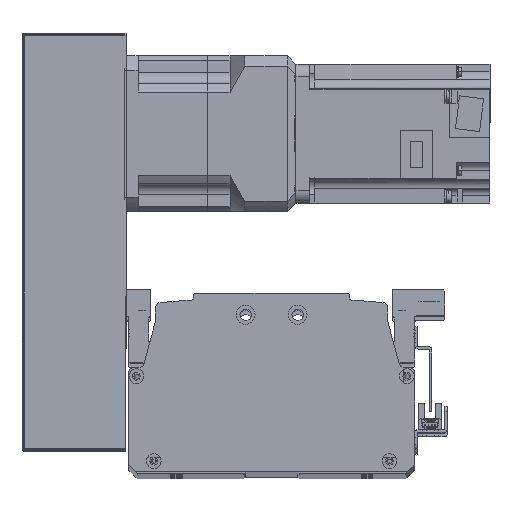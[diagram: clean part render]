
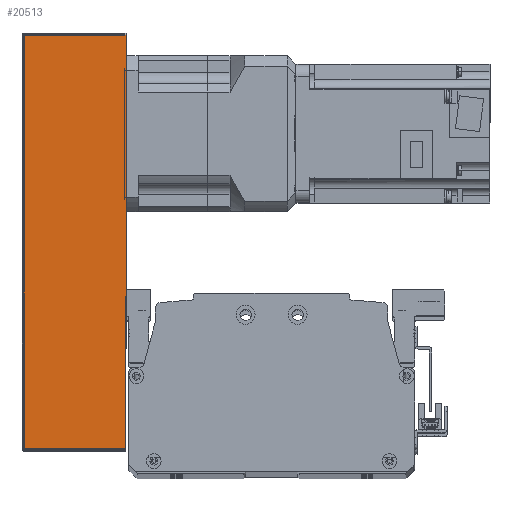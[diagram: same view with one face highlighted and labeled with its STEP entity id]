
A CAD part, top view. The second image highlights one B-rep face of the part: STEP entity #20513.
In plain terms, the highlighted planar face has unit normal (0, 0, 1) as drawn and (0, -1, 0) by its records, which use the part's own axes.
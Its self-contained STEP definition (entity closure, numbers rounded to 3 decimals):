
#615=PLANE('',#22415);
#1736=LINE('',#33035,#3396);
#1759=LINE('',#33122,#3419);
#1760=LINE('',#33130,#3420);
#1768=LINE('',#33156,#3428);
#3396=VECTOR('',#26763,10.);
#3419=VECTOR('',#26874,10.);
#3420=VECTOR('',#26885,10.);
#3428=VECTOR('',#26921,10.);
#5496=FACE_OUTER_BOUND('',#7008,.T.);
#7008=EDGE_LOOP('',(#16694,#16695,#16696,#16697));
#9956=VERTEX_POINT('',#33032);
#9957=VERTEX_POINT('',#33034);
#9977=VERTEX_POINT('',#33118);
#9978=VERTEX_POINT('',#33124);
#12355=EDGE_CURVE('',#9956,#9957,#1736,.T.);
#12400=EDGE_CURVE('',#9957,#9977,#1759,.T.);
#12404=EDGE_CURVE('',#9978,#9956,#1760,.T.);
#12418=EDGE_CURVE('',#9977,#9978,#1768,.T.);
#16694=ORIENTED_EDGE('',*,*,#12400,.F.);
#16695=ORIENTED_EDGE('',*,*,#12355,.F.);
#16696=ORIENTED_EDGE('',*,*,#12404,.F.);
#16697=ORIENTED_EDGE('',*,*,#12418,.F.);
#20513=ADVANCED_FACE('',(#5496),#615,.T.);
#22415=AXIS2_PLACEMENT_3D('',#33161,#26930,#26931);
#26763=DIRECTION('',(1.,0.,0.));
#26874=DIRECTION('',(0.,0.,-1.));
#26885=DIRECTION('',(0.,0.,1.));
#26921=DIRECTION('',(-1.,0.,0.));
#26930=DIRECTION('center_axis',(0.,-1.,0.));
#26931=DIRECTION('ref_axis',(1.,0.,0.));
#33032=CARTESIAN_POINT('',(-119.5,-51.,30.));
#33034=CARTESIAN_POINT('',(119.5,-51.,30.));
#33035=CARTESIAN_POINT('',(120.5,-51.,30.));
#33118=CARTESIAN_POINT('',(119.5,-51.,-29.));
#33122=CARTESIAN_POINT('',(119.5,-51.,0.));
#33124=CARTESIAN_POINT('',(-119.5,-51.,-29.));
#33130=CARTESIAN_POINT('',(-119.5,-51.,0.));
#33156=CARTESIAN_POINT('',(-60.25,-51.,-29.));
#33161=CARTESIAN_POINT('Origin',(-120.5,-51.,0.));
